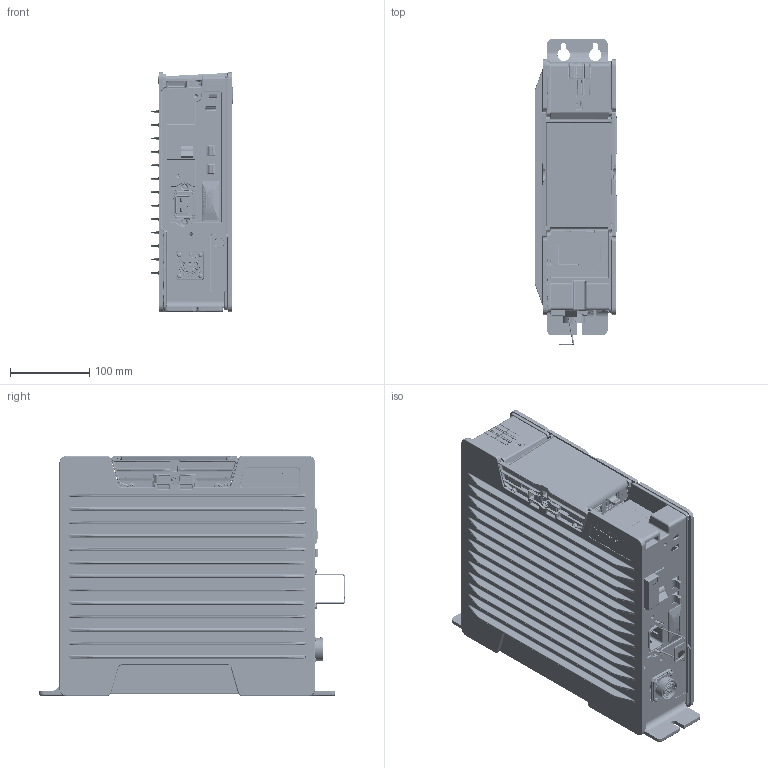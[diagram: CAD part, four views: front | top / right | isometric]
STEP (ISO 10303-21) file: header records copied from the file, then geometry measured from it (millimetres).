
FILE_DESCRIPTION((''),'2;1');
FILE_NAME('6159327950_DIM','2026-03-24T11:59:27',('SYSTEM'),(''),'CREO PARAMETRIC BY PTC INC, 2025243','CREO PARAMETRIC BY PTC INC, 2025243','');
FILE_SCHEMA(('AP242_MANAGED_MODEL_BASED_3D_ENGINEERING_MIM_LF { 1 0 10303 442 1 1 4 }'));
Products named in the file (1): 6159327950_DIM
Bounding box: 104.52 x 387.04 x 303.44 mm (x, y, z)
Surface area: 884690.5 mm2 (no closed solid volume)
Topology: 0 solids, 1528 shells, 7739 faces, 51264 edges, 44356 vertices
Faces by surface type: plane 3650, cylinder 2056, bspline 1175, torus 418, cone 364, sphere 69, extrusion 5, revolution 2
Entity records: 648052 total; most frequent: CARTESIAN_POINT 256996, ORIENTED_EDGE 63400, DIRECTION 57435, EDGE_CURVE 51079, VERTEX_POINT 44289, VECTOR 26945, LINE 26940, B_SPLINE_CURVE_WITH_KNOTS 15456
